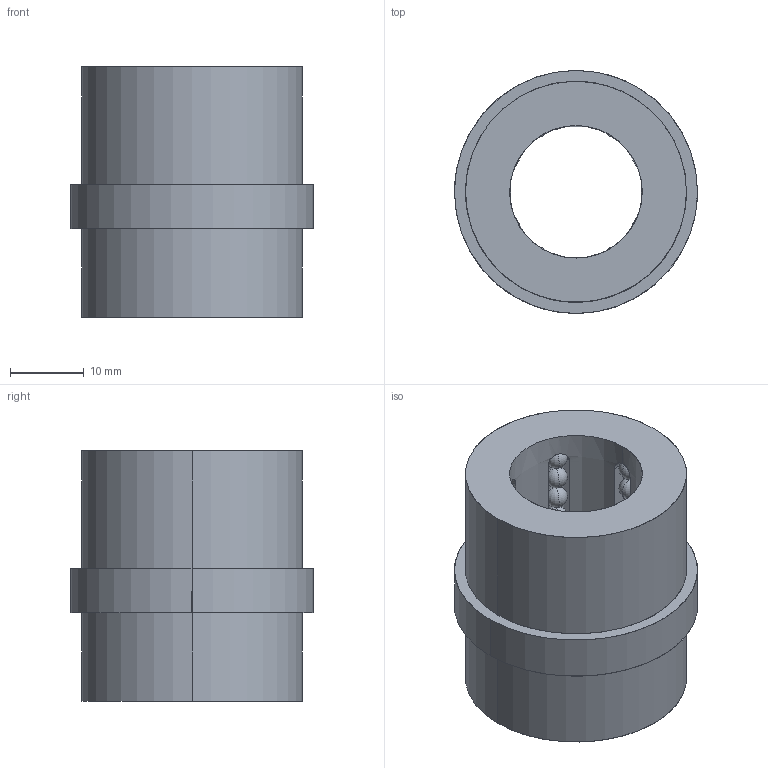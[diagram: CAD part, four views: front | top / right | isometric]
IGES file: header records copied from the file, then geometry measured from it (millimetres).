
Start section: START RECORD GO HERE.
Global section: file name: B844181222.igs; native system: DASSAULT SYSTEMES CATIA V5 R20 - www.3ds.com; preprocessor: CATIA Version 5 Release 20 ; author: Utente; organization: NB04-ASUS; date: 20200419.200817; units: millimetre
Bounding box: 33 x 33 x 34 mm (x, y, z)
Surface area: 9002.9 mm2 (no closed solid volume)
Topology: 0 solids, 0 shells, 258 faces, 1068 edges, 636 vertices
Faces by surface type: revolution 236, plane 22
